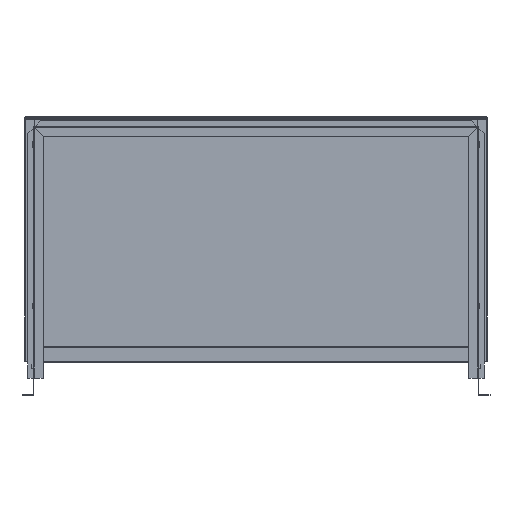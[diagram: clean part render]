
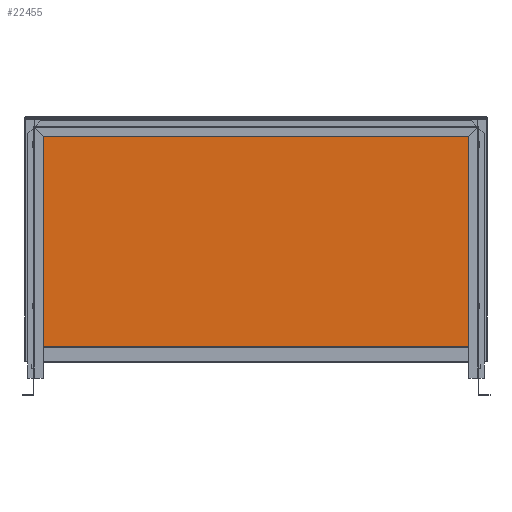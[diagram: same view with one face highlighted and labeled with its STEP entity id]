
A CAD part, front view. The second image highlights one B-rep face of the part: STEP entity #22455.
In plain terms, the highlighted planar face has unit normal (0, -1, 0).
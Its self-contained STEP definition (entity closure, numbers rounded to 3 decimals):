
#16622=CARTESIAN_POINT('',(572.271,0.8,647.2));
#16623=VERTEX_POINT('',#16622);
#16630=CARTESIAN_POINT('',(550.,0.8,624.929));
#16631=VERTEX_POINT('',#16630);
#16632=CARTESIAN_POINT('',(572.271,0.8,647.2));
#16633=DIRECTION('',(-0.707,-0.,-0.707));
#16634=VECTOR('',#16633,31.496);
#16635=LINE('',#16632,#16634);
#16636=EDGE_CURVE('',#16623,#16631,#16635,.T.);
#16687=CARTESIAN_POINT('',(550.,0.8,81.8));
#16688=VERTEX_POINT('',#16687);
#16821=CARTESIAN_POINT('',(550.,0.8,81.8));
#16822=DIRECTION('',(0.,0.,1.));
#16823=VECTOR('',#16822,543.129);
#16824=LINE('',#16821,#16823);
#16825=EDGE_CURVE('',#16688,#16631,#16824,.T.);
#17457=CARTESIAN_POINT('',(549.929,0.8,625.));
#17458=VERTEX_POINT('',#17457);
#17465=CARTESIAN_POINT('',(572.129,0.8,647.2));
#17466=VERTEX_POINT('',#17465);
#17467=CARTESIAN_POINT('',(549.929,0.8,625.));
#17468=DIRECTION('',(0.707,0.,0.707));
#17469=VECTOR('',#17468,31.396);
#17470=LINE('',#17467,#17469);
#17471=EDGE_CURVE('',#17458,#17466,#17470,.T.);
#18735=CARTESIAN_POINT('',(-572.129,0.8,647.2));
#18736=VERTEX_POINT('',#18735);
#19815=CARTESIAN_POINT('',(-549.929,0.8,625.));
#19816=VERTEX_POINT('',#19815);
#19823=CARTESIAN_POINT('',(549.929,0.8,625.));
#19824=DIRECTION('',(-1.,0.,0.));
#19825=VECTOR('',#19824,1099.859);
#19826=LINE('',#19823,#19825);
#19827=EDGE_CURVE('',#17458,#19816,#19826,.T.);
#19858=CARTESIAN_POINT('',(-572.129,0.8,647.2));
#19859=DIRECTION('',(0.707,-0.,-0.707));
#19860=VECTOR('',#19859,31.396);
#19861=LINE('',#19858,#19860);
#19862=EDGE_CURVE('',#18736,#19816,#19861,.T.);
#22285=CARTESIAN_POINT('',(-550.,0.8,624.929));
#22286=VERTEX_POINT('',#22285);
#22293=CARTESIAN_POINT('',(-572.271,0.8,647.2));
#22294=VERTEX_POINT('',#22293);
#22295=CARTESIAN_POINT('',(-550.,0.8,624.929));
#22296=DIRECTION('',(-0.707,0.,0.707));
#22297=VECTOR('',#22296,31.496);
#22298=LINE('',#22295,#22297);
#22299=EDGE_CURVE('',#22286,#22294,#22298,.T.);
#22316=CARTESIAN_POINT('',(-550.,0.8,81.8));
#22317=VERTEX_POINT('',#22316);
#22384=CARTESIAN_POINT('',(-550.,0.8,624.929));
#22385=DIRECTION('',(-0.,0.,-1.));
#22386=VECTOR('',#22385,543.129);
#22387=LINE('',#22384,#22386);
#22388=EDGE_CURVE('',#22286,#22317,#22387,.T.);
#22423=CARTESIAN_POINT('',(0.,0.8,0.));
#22424=DIRECTION('',(0.,1.,0.));
#22425=DIRECTION('',(-1.,0.,0.));
#22426=AXIS2_PLACEMENT_3D('',#22423,#22424,#22425);
#22427=PLANE('',#22426);
#22428=CARTESIAN_POINT('',(550.,0.8,81.8));
#22429=DIRECTION('',(-1.,0.,0.));
#22430=VECTOR('',#22429,1100.);
#22431=LINE('',#22428,#22430);
#22432=EDGE_CURVE('',#16688,#22317,#22431,.T.);
#22433=ORIENTED_EDGE('',*,*,#22432,.F.);
#22434=ORIENTED_EDGE('',*,*,#16825,.T.);
#22435=ORIENTED_EDGE('',*,*,#16636,.F.);
#22436=CARTESIAN_POINT('',(572.129,0.8,647.2));
#22437=DIRECTION('',(1.,0.,-0.));
#22438=VECTOR('',#22437,0.141);
#22439=LINE('',#22436,#22438);
#22440=EDGE_CURVE('',#17466,#16623,#22439,.T.);
#22441=ORIENTED_EDGE('',*,*,#22440,.F.);
#22442=ORIENTED_EDGE('',*,*,#17471,.F.);
#22443=ORIENTED_EDGE('',*,*,#19827,.T.);
#22444=ORIENTED_EDGE('',*,*,#19862,.F.);
#22445=CARTESIAN_POINT('',(-572.271,0.8,647.2));
#22446=DIRECTION('',(1.,0.,-0.));
#22447=VECTOR('',#22446,0.141);
#22448=LINE('',#22445,#22447);
#22449=EDGE_CURVE('',#22294,#18736,#22448,.T.);
#22450=ORIENTED_EDGE('',*,*,#22449,.F.);
#22451=ORIENTED_EDGE('',*,*,#22299,.F.);
#22452=ORIENTED_EDGE('',*,*,#22388,.T.);
#22453=EDGE_LOOP('',(#22433,#22434,#22435,#22441,#22442,#22443,#22444,#22450,#22451,#22452));
#22454=FACE_BOUND('',#22453,.T.);
#22455=ADVANCED_FACE('',(#22454),#22427,.F.);
